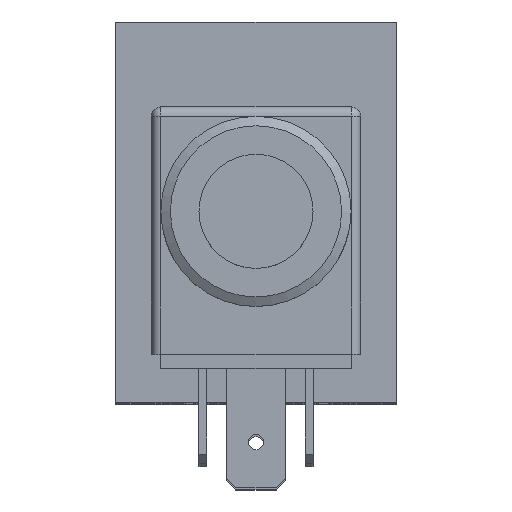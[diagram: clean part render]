
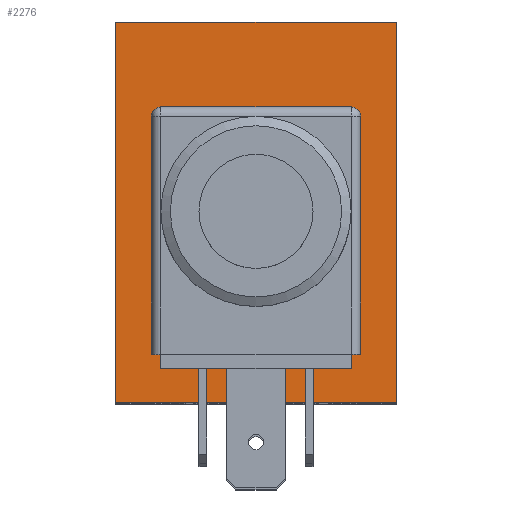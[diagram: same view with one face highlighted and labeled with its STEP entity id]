
A CAD part, top view. The second image highlights one B-rep face of the part: STEP entity #2276.
In plain terms, the highlighted planar face has unit normal (0, 0, 1).
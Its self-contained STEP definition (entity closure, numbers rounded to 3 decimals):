
#31=LINE('',#3470,#202);
#36=LINE('',#3483,#207);
#40=LINE('',#3495,#211);
#44=LINE('',#3507,#215);
#46=LINE('',#3517,#217);
#51=LINE('',#3526,#222);
#55=LINE('',#3534,#226);
#56=LINE('',#3536,#227);
#202=VECTOR('',#2821,15.);
#207=VECTOR('',#2834,15.);
#211=VECTOR('',#2846,15.);
#215=VECTOR('',#2858,15.);
#217=VECTOR('',#2870,40.);
#222=VECTOR('',#2877,29.5);
#226=VECTOR('',#2885,29.5);
#227=VECTOR('',#2888,40.);
#464=FACE_BOUND('',#748,.T.);
#465=FACE_BOUND('',#749,.T.);
#748=EDGE_LOOP('',(#1603,#1604,#1605,#1606,#1607,#1608,#1609,#1610));
#749=EDGE_LOOP('',(#1611,#1612,#1613,#1614));
#931=CIRCLE('',#2477,3.5);
#933=CIRCLE('',#2481,3.5);
#935=CIRCLE('',#2485,3.5);
#937=CIRCLE('',#2489,3.5);
#1034=VERTEX_POINT('',#3467);
#1035=VERTEX_POINT('',#3469);
#1037=VERTEX_POINT('',#3475);
#1039=VERTEX_POINT('',#3481);
#1041=VERTEX_POINT('',#3487);
#1043=VERTEX_POINT('',#3493);
#1045=VERTEX_POINT('',#3499);
#1047=VERTEX_POINT('',#3505);
#1048=VERTEX_POINT('',#3513);
#1050=VERTEX_POINT('',#3516);
#1052=VERTEX_POINT('',#3522);
#1055=VERTEX_POINT('',#3532);
#1238=EDGE_CURVE('',#1035,#1034,#31,.T.);
#1242=EDGE_CURVE('',#1034,#1037,#931,.T.);
#1245=EDGE_CURVE('',#1037,#1039,#36,.T.);
#1248=EDGE_CURVE('',#1039,#1041,#933,.T.);
#1251=EDGE_CURVE('',#1041,#1043,#40,.T.);
#1254=EDGE_CURVE('',#1043,#1045,#935,.T.);
#1257=EDGE_CURVE('',#1045,#1047,#44,.T.);
#1259=EDGE_CURVE('',#1047,#1035,#937,.T.);
#1261=EDGE_CURVE('',#1050,#1048,#46,.T.);
#1266=EDGE_CURVE('',#1052,#1050,#51,.T.);
#1270=EDGE_CURVE('',#1048,#1055,#55,.T.);
#1271=EDGE_CURVE('',#1055,#1052,#56,.T.);
#1603=ORIENTED_EDGE('',*,*,#1238,.T.);
#1604=ORIENTED_EDGE('',*,*,#1242,.T.);
#1605=ORIENTED_EDGE('',*,*,#1245,.T.);
#1606=ORIENTED_EDGE('',*,*,#1248,.T.);
#1607=ORIENTED_EDGE('',*,*,#1251,.T.);
#1608=ORIENTED_EDGE('',*,*,#1254,.T.);
#1609=ORIENTED_EDGE('',*,*,#1257,.T.);
#1610=ORIENTED_EDGE('',*,*,#1259,.T.);
#1611=ORIENTED_EDGE('',*,*,#1271,.T.);
#1612=ORIENTED_EDGE('',*,*,#1266,.T.);
#1613=ORIENTED_EDGE('',*,*,#1261,.T.);
#1614=ORIENTED_EDGE('',*,*,#1270,.T.);
#2050=PLANE('',#2495);
#2276=ADVANCED_FACE('',(#464,#465),#2050,.T.);
#2477=AXIS2_PLACEMENT_3D('',#3477,#2828,#2829);
#2481=AXIS2_PLACEMENT_3D('',#3489,#2840,#2841);
#2485=AXIS2_PLACEMENT_3D('',#3501,#2852,#2853);
#2489=AXIS2_PLACEMENT_3D('',#3510,#2863,#2864);
#2495=AXIS2_PLACEMENT_3D('',#3535,#2886,#2887);
#2821=DIRECTION('',(1.,0.,0.));
#2828=DIRECTION('center_axis',(0.,0.,-1.));
#2829=DIRECTION('ref_axis',(-1.,0.,0.));
#2834=DIRECTION('',(0.,-1.,0.));
#2840=DIRECTION('center_axis',(0.,0.,-1.));
#2841=DIRECTION('ref_axis',(0.,1.,0.));
#2846=DIRECTION('',(-1.,0.,0.));
#2852=DIRECTION('center_axis',(0.,0.,-1.));
#2853=DIRECTION('ref_axis',(1.,0.,0.));
#2858=DIRECTION('',(0.,1.,0.));
#2863=DIRECTION('center_axis',(0.,0.,-1.));
#2864=DIRECTION('ref_axis',(0.,-1.,0.));
#2870=DIRECTION('',(0.,-1.,0.));
#2877=DIRECTION('',(-1.,0.,0.));
#2885=DIRECTION('',(1.,0.,0.));
#2886=DIRECTION('center_axis',(0.,0.,1.));
#2887=DIRECTION('ref_axis',(1.,0.,0.));
#2888=DIRECTION('',(0.,1.,0.));
#3467=CARTESIAN_POINT('',(7.5,11.,50.));
#3469=CARTESIAN_POINT('',(-7.5,11.,50.));
#3470=CARTESIAN_POINT('',(-3.75,11.,50.));
#3475=CARTESIAN_POINT('',(11.,7.5,50.));
#3477=CARTESIAN_POINT('Origin',(7.5,7.5,50.));
#3481=CARTESIAN_POINT('',(11.,-7.5,50.));
#3483=CARTESIAN_POINT('',(11.,-6.25,50.));
#3487=CARTESIAN_POINT('',(7.5,-11.,50.));
#3489=CARTESIAN_POINT('Origin',(7.5,-7.5,50.));
#3493=CARTESIAN_POINT('',(-7.5,-11.,50.));
#3495=CARTESIAN_POINT('',(3.75,-11.,50.));
#3499=CARTESIAN_POINT('',(-11.,-7.5,50.));
#3501=CARTESIAN_POINT('Origin',(-7.5,-7.5,50.));
#3505=CARTESIAN_POINT('',(-11.,7.5,50.));
#3507=CARTESIAN_POINT('',(-11.,-13.75,50.));
#3510=CARTESIAN_POINT('Origin',(-7.5,7.5,50.));
#3513=CARTESIAN_POINT('',(-14.75,-20.,50.));
#3516=CARTESIAN_POINT('',(-14.75,20.,50.));
#3517=CARTESIAN_POINT('',(-14.75,-20.,50.));
#3522=CARTESIAN_POINT('',(14.75,20.,50.));
#3526=CARTESIAN_POINT('',(0.,20.,50.));
#3532=CARTESIAN_POINT('',(14.75,-20.,50.));
#3534=CARTESIAN_POINT('',(0.,-20.,50.));
#3535=CARTESIAN_POINT('Origin',(0.,-20.,50.));
#3536=CARTESIAN_POINT('',(14.75,-20.,50.));
